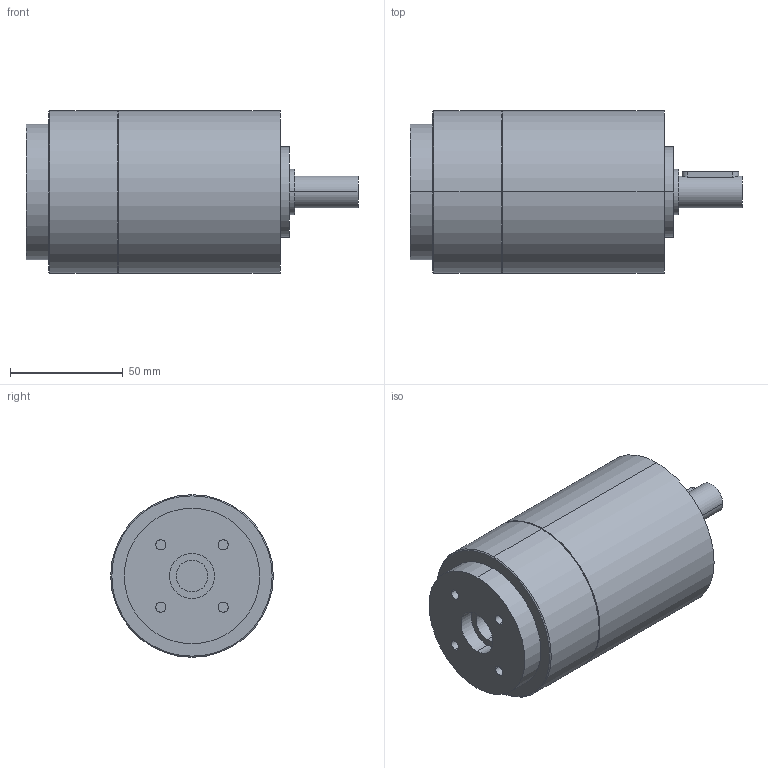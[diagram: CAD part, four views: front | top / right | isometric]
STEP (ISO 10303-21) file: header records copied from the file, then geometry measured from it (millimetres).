
FILE_DESCRIPTION(('CoCreate Modeling STEP Export'),'2;1');
FILE_NAME('GPT75_ig-9-12-16-20-25-28-35-40-50-70-100_14_B14T_14_P14.stp','2014-08-27T13:17:05',(''),(''),'CoCreate Modeling STEP processor for AP214 (Solid Model)','CoCreate Modeling 16.00C 25-Feb-2009 (C) Parametric Technology GmbH','');
FILE_SCHEMA(('AUTOMOTIVE_DESIGN { 1 0 10303 214 1 1 1 1 }'));
Length unit declared in the file: millimetre
Products named in the file (2): GPT75_ig-9-12-16-20-25-28-35-40-50-70-100_14_B14T_14_P14
Assembly tree (1 placements, depth 2):
  GPT75_ig-9-12-16-20-25-28-35-40-50-70-100_14_B14T_14_P14
    GPT75_ig-9-12-16-20-25-28-35-40-50-70-100_14_B14T_14_P14
Bounding box: 147 x 72 x 72 mm (x, y, z)
Volume: 447300.9 mm3; surface area: 38524.7 mm2
Topology: 1 solids, 1 shells, 61 faces, 137 edges, 94 vertices
Faces by surface type: cylinder 36, plane 21, cone 4
Entity records: 1823 total; most frequent: CARTESIAN_POINT 606, ORIENTED_EDGE 274, DIRECTION 202, EDGE_CURVE 137, VERTEX_POINT 94, AXIS2_PLACEMENT_3D 78, EDGE_LOOP 77, FACE_OUTER_BOUND 61
